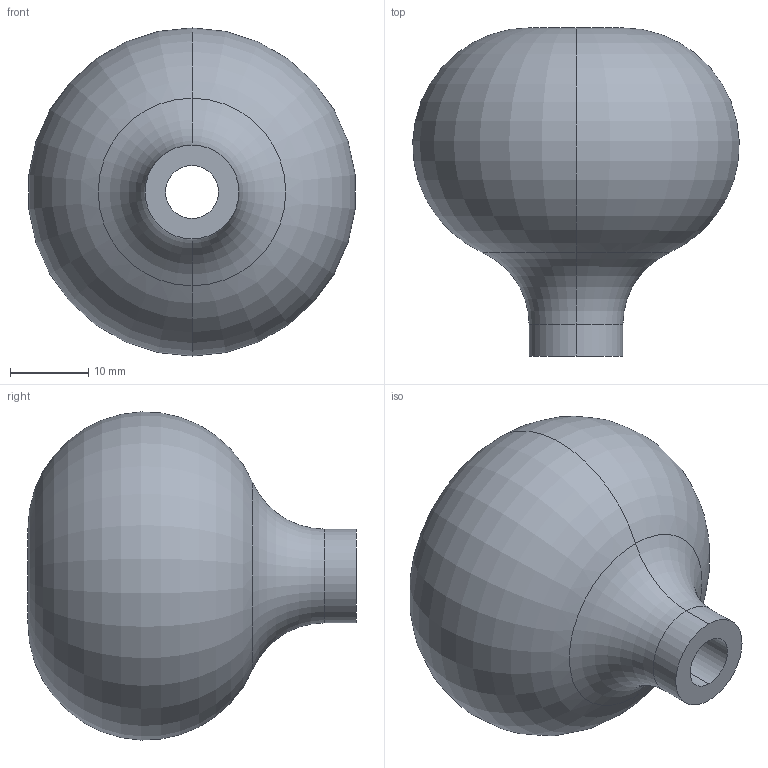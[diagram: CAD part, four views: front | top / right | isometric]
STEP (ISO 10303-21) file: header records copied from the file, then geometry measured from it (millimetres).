
FILE_DESCRIPTION (( 'STEP AP203' ), '1' );
FILE_NAME ('reel-handle.STEP', '2024-12-06T23:52:34', ( '' ), ( '' ), 'SwSTEP 2.0', 'SolidWorks 2022', '' );
FILE_SCHEMA (( 'CONFIG_CONTROL_DESIGN' ));
Length unit declared in the file: millimetre
Products named in the file (1): reel-handle
Bounding box: 41.75 x 42 x 41.98 mm (x, y, z)
Volume: 30794.5 mm3; surface area: 6125.2 mm2
Topology: 1 solids, 1 shells, 12 faces, 24 edges, 14 vertices
Faces by surface type: cylinder 6, torus 4, plane 2
Entity records: 399 total; most frequent: DIRECTION 68, CARTESIAN_POINT 51, ORIENTED_EDGE 48, AXIS2_PLACEMENT_3D 31, EDGE_CURVE 24, CIRCLE 18, VERTEX_POINT 14, EDGE_LOOP 14
